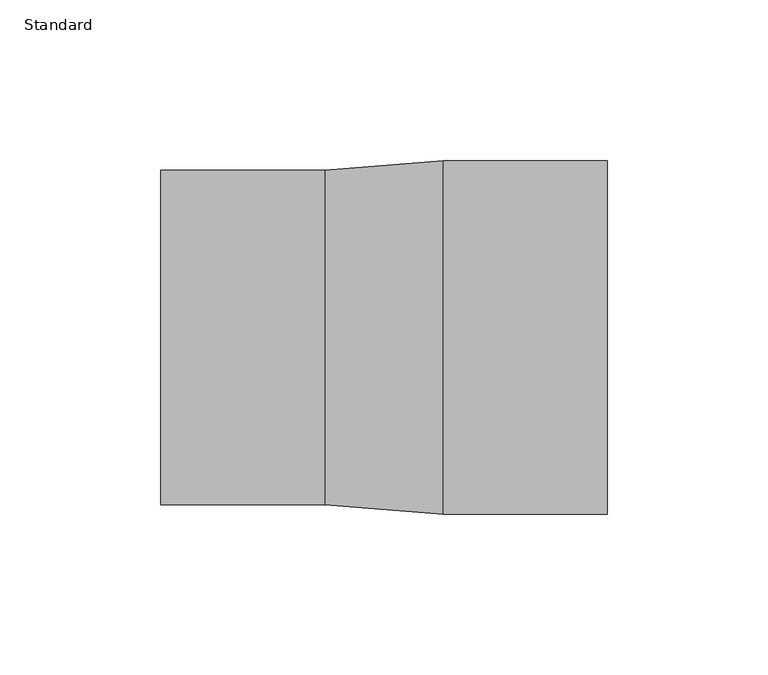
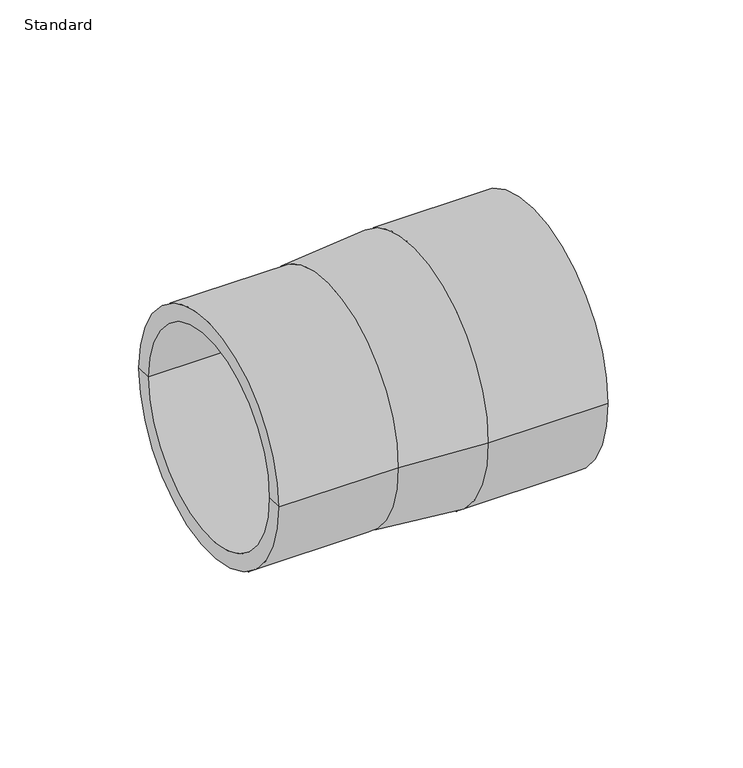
"""IFC4 building model written with IfcOpenShell, lengths in millimetres: pipe fitting geometry, Durapipe_PipeFitting_PVC_Reducers : Standard."""

import ifcopenshell
import ifcopenshell.guid

model = None  # the IFC model being written
_history = None  # IfcOwnerHistory: only IFC2X3 demands one
_inside = {}  # id of a spatial element -> (the spatial element, [elements in it])
_under = {}  # id of a project, library or spatial element -> (it, [spatial elements below it])
_declared = {}  # id of a project -> (the project, [libraries it declares])
_typed = {}  # id of a type object -> (the type object, [elements of that type])
_made_of = {}  # id of a material, layer set ... -> (it, [elements and type objects made of it])


def new_model(schema):
    """Start an empty IFC model of exactly this schema.

    Asked for "IFC4X3", IfcOpenShell would pick the latest addendum, in which some entities
    have other attributes; the version numbers below select the first issue.
    IFC2X3 requires an IfcOwnerHistory on every rooted entity: one is made here for all.
    """
    global model, _history
    if schema == "IFC4X3":
        model = ifcopenshell.file(schema_version=(4, 3, 0, 0))
    else:
        model = ifcopenshell.file(schema=schema)
    _inside.clear()
    _under.clear()
    _declared.clear()
    _typed.clear()
    _made_of.clear()
    _history = None
    if model.schema == "IFC2X3":
        org = make("IfcOrganization", Name="unknown")
        user = make(
            "IfcPersonAndOrganization",
            ThePerson=make("IfcPerson", FamilyName="unknown"),
            TheOrganization=org,
        )
        app = make(
            "IfcApplication",
            ApplicationDeveloper=org,
            Version="unknown",
            ApplicationFullName="unknown",
            ApplicationIdentifier="unknown",
        )
        _history = make(
            "IfcOwnerHistory",
            OwningUser=user,
            OwningApplication=app,
            ChangeAction="ADDED",
            CreationDate=0,
        )
    return model


def make(cls, **values):
    """One entity of the class cls with the attributes given. An attribute that is None is left unset."""
    return model.create_entity(
        cls, **{name: value for name, value in values.items() if value is not None}
    )


def rooted(cls, **values):
    """An entity with a GlobalId (a new one), such as an element, a storey or a relation."""
    return make(cls, GlobalId=ifcopenshell.guid.new(), OwnerHistory=_history, **values)


def si_unit(unit_type, name, prefix=None):
    """IfcSIUnit, for example si_unit("LENGTHUNIT", "METRE", prefix="MILLI")."""
    return make("IfcSIUnit", UnitType=unit_type, Prefix=prefix, Name=name)


def assignment(units):
    """IfcUnitAssignment: the units of a project."""
    return None if units is None else make("IfcUnitAssignment", Units=units)


def point(xyz):
    """IfcCartesianPoint."""
    return None if xyz is None else make("IfcCartesianPoint", Coordinates=xyz)


def direction(xyz):
    """IfcDirection."""
    return None if xyz is None else make("IfcDirection", DirectionRatios=xyz)


def frame(location, z_axis=None, x_axis=None):
    """IfcAxis2Placement3D, a coordinate frame: its origin and axes. An axis left out is left unset."""
    return make(
        "IfcAxis2Placement3D",
        Location=point(location),
        Axis=direction(z_axis),
        RefDirection=direction(x_axis),
    )


def origin():
    """The frame at (0, 0, 0) with its axes left unset."""
    return frame((0.0, 0.0, 0.0))


def place(relative_to, where):
    """IfcLocalPlacement: puts the frame where relative to a parent placement (None: the world)."""
    return make(
        "IfcLocalPlacement", PlacementRelTo=relative_to, RelativePlacement=where
    )


def context(
    kind, dimensions, precision=None, world=None, true_north=None, identifier=None
):
    """IfcGeometricRepresentationContext, for example the 3D "Model" context."""
    return make(
        "IfcGeometricRepresentationContext",
        ContextIdentifier=identifier,
        ContextType=kind,
        CoordinateSpaceDimension=dimensions,
        Precision=precision,
        WorldCoordinateSystem=world,
        TrueNorth=true_north,
    )


def project(units=None, contexts=None):
    """IfcProject with its units and contexts."""
    return rooted(
        "IfcProject",
        Name="project",
        RepresentationContexts=contexts,
        UnitsInContext=assignment(units),
    )


def spatial(cls, under=None, at=None, **own):
    """A site, building, storey or space (cls), placed at a placement, below another one or the project."""
    s = rooted(cls, ObjectPlacement=at, **own)
    if under is not None:
        _under.setdefault(under.id(), (under, []))[1].append(s)
    return s


def polyline(points):
    """IfcPolyline through the points."""
    return make("IfcPolyline", Points=[point(p) for p in points])


def circle_curve(where, radius):
    """IfcCircle in the frame where."""
    return make("IfcCircle", Position=where, Radius=radius)


def shape(context_of_items, identifier, shape_type, items):
    """IfcShapeRepresentation: the items that make up one representation, for example the "Body"."""
    return make(
        "IfcShapeRepresentation",
        ContextOfItems=context_of_items,
        RepresentationIdentifier=identifier,
        RepresentationType=shape_type,
        Items=items,
    )


def source(mapping_origin, context_of_items, identifier, shape_type, items):
    """IfcRepresentationMap: a shape defined once, which mapped items show again and again."""
    return make(
        "IfcRepresentationMap",
        MappingOrigin=mapping_origin,
        MappedRepresentation=shape(context_of_items, identifier, shape_type, items),
    )


def transform(
    local_origin,
    x_axis=None,
    y_axis=None,
    z_axis=None,
    scale=None,
    scale2=None,
    scale3=None,
    uniform=True,
):
    """IfcCartesianTransformationOperator3D, or its non-uniform kind. x_axis, y_axis, z_axis: its Axis1, 2, 3."""
    if uniform:
        return make(
            "IfcCartesianTransformationOperator3D",
            Axis1=direction(x_axis),
            Axis2=direction(y_axis),
            LocalOrigin=point(local_origin),
            Scale=scale,
            Axis3=direction(z_axis),
        )
    return make(
        "IfcCartesianTransformationOperator3DnonUniform",
        Axis1=direction(x_axis),
        Axis2=direction(y_axis),
        LocalOrigin=point(local_origin),
        Scale=scale,
        Axis3=direction(z_axis),
        Scale2=scale2,
        Scale3=scale3,
    )


def mapped(mapping_source, mapping_target):
    """IfcMappedItem: shows the shape of a source again, moved by a transform."""
    return make(
        "IfcMappedItem", MappingSource=mapping_source, MappingTarget=mapping_target
    )


def made_of(thing, what):
    """Note that an element or type object is made of a material, layer set ...; save() writes the relation."""
    if what is not None:
        _made_of.setdefault(what.id(), (what, []))[1].append(thing)
    return thing


def element(
    cls,
    number,
    at=None,
    inside=None,
    cuts=None,
    type_object=None,
    material=None,
    context=None,
    identifier="Body",
    shape_type=None,
    held_by="IfcProductDefinitionShape",
    body=None,
    shapes=None,
    **own,
):
    """One element of the class cls, such as IfcWall. Its Tag is "e" and its number.

    at: its placement. inside: the storey or other place that contains it. cuts: it is an
    opening in that element (IfcRelVoidsElement). A single representation is given by context,
    identifier, shape_type and body (its items); several are given by shapes. held_by: the class
    of the entity that holds the representations. save() writes the other relations.
    """
    e = rooted(cls, Tag="e%d" % number, ObjectPlacement=at, **own)
    if body is not None:
        shapes = [shape(context, identifier, shape_type, body)]
    if shapes is not None:
        e.Representation = make(held_by, Representations=shapes)
    if inside is not None:
        _inside.setdefault(inside.id(), (inside, []))[1].append(e)
    if cuts is not None:
        rooted(
            "IfcRelVoidsElement", RelatingBuildingElement=cuts, RelatedOpeningElement=e
        )
    if type_object is not None:
        _typed.setdefault(type_object.id(), (type_object, []))[1].append(e)
    return made_of(e, material)


def aggregate(whole, parts):
    """IfcRelAggregates: a whole, such as a stair, and the parts it consists of."""
    return rooted("IfcRelAggregates", RelatingObject=whole, RelatedObjects=parts)


def save(model, path):
    """Write the relations noted so far, then the file.

    IfcRelAggregates (storeys below a building ...), IfcRelContainedInSpatialStructure (elements
    in a storey), IfcRelDefinesByType, IfcRelAssociatesMaterial and IfcRelDeclares: one each for
    every whole, place, type object, material and project.
    """
    for whole, parts in _under.values():
        aggregate(whole, parts)
    for where, things in _inside.values():
        rooted(
            "IfcRelContainedInSpatialStructure",
            RelatedElements=things,
            RelatingStructure=where,
        )
    for kind, things in _typed.values():
        rooted("IfcRelDefinesByType", RelatedObjects=things, RelatingType=kind)
    for what, things in _made_of.values():
        rooted("IfcRelAssociatesMaterial", RelatedObjects=things, RelatingMaterial=what)
    for by, libraries in _declared.values():
        rooted("IfcRelDeclares", RelatingContext=by, RelatedDefinitions=libraries)
    model.write(path)


def plane_surface(at):
    """IfcPlane: the flat surface through the origin of the frame at, square to its z axis."""
    return make("IfcPlane", Position=at)


def cylinder_surface(at, radius):
    """IfcCylindricalSurface: all points at the distance radius from the z axis of the frame at."""
    return make("IfcCylindricalSurface", Position=at, Radius=radius)


def revolved_surface(curve, axis_point, axis_direction):
    """IfcSurfaceOfRevolution: the curve turned about the line through axis_point along axis_direction."""
    return make(
        "IfcSurfaceOfRevolution",
        SweptCurve=make("IfcArbitraryOpenProfileDef", ProfileType="CURVE", Curve=curve),
        AxisPosition=make("IfcAxis1Placement", Location=point(axis_point), Axis=direction(axis_direction)),
    )


def advanced_brep(points, edges, surfaces, faces):
    """IfcAdvancedBrep: a solid bounded by faces that lie on surfaces and meet in shared edges.

    An edge is (start, end): straight between two places in points (the first is 0);
    or (start, end, curve); or (start, end, curve, False) where it runs against its curve.
    A face is (place in surfaces, loops), or (place, loops, False) where it looks against
    its surface's normal. A loop lists edges by number (the first is 1), with a minus sign
    where the edge is run from its end to its start. The first loop is the outer one.
    """
    corners = [point(p) for p in points]
    vertices = [make("IfcVertexPoint", VertexGeometry=c) for c in corners]
    made = []
    for start, end, *more in edges:
        made.append(
            make(
                "IfcEdgeCurve",
                EdgeStart=vertices[start],
                EdgeEnd=vertices[end],
                EdgeGeometry=more[0] if more else make("IfcPolyline", Points=[corners[start], corners[end]]),
                SameSense=more[1] if len(more) > 1 else True,
            )
        )
    hull = []
    for where, loops, *sense in faces:
        bounds = []
        for j, loop in enumerate(loops):
            ring = [make("IfcOrientedEdge", EdgeElement=made[abs(k) - 1], Orientation=k > 0) for k in loop]
            bounds.append(
                make(
                    "IfcFaceOuterBound" if j == 0 else "IfcFaceBound",
                    Bound=make("IfcEdgeLoop", EdgeList=ring),
                    Orientation=True,
                )
            )
        hull.append(make("IfcAdvancedFace", Bounds=bounds, FaceSurface=surfaces[where], SameSense=sense[0] if sense else True))
    return make("IfcAdvancedBrep", Outer=make("IfcClosedShell", CfsFaces=hull))


def standard_e4e67fd3(model_context):
    return source(origin(), model_context, "Body", "AdvancedBrep", [
        advanced_brep(
        [(-69.5, -52.0, 0.0), (-69.5, 52.0, 0.0), (-18.5, 52.0, 0.0), (-18.5, -52.0, 0.0), (-69.5, -45.0, 0.0), (-69.5, 45.0, 0.0), (69.5, -55.0, 0.0), (69.5, 55.0, 0.0), (69.5, 45.0, 0.0), (69.5, -45.0, 0.0), (18.5, -55.0, 0.0), (18.5, 55.0, 0.0), (-18.5, -45.0, 0.0), (-18.5, 45.0, 0.0), (-18.5, 0.0, 0.0), (18.5, -45.0, 0.0), (18.5, 45.0, 0.0), (18.5, 0.0, 0.0)],
        [
            (0, 1, circle_curve(frame((-69.5, 0.0, 0.0), z_axis=(1.0, 0.0, 0.0), x_axis=(0.0, 1.0, 0.0)), 52.0)),
            (1, 2),
            (2, 3, circle_curve(frame((-18.5, 0.0, 0.0), z_axis=(-1.0, 0.0, 0.0), x_axis=(0.0, 1.0, 0.0)), 52.0)),
            (3, 0),
            (1, 0, circle_curve(frame((-69.5, 0.0, 0.0), z_axis=(1.0, 0.0, 0.0), x_axis=(0.0, 1.0, 0.0)), 52.0)),
            (3, 2, circle_curve(frame((-18.5, 0.0, 0.0), z_axis=(-1.0, 0.0, 0.0), x_axis=(0.0, 1.0, 0.0)), 52.0)),
            (4, 5, circle_curve(frame((-69.5, 0.0, 0.0), z_axis=(1.0, 0.0, 0.0), x_axis=(0.0, 1.0, 0.0)), 45.0)),
            (5, 1),
            (0, 4),
            (5, 4, circle_curve(frame((-69.5, 0.0, 0.0), z_axis=(1.0, 0.0, 0.0), x_axis=(0.0, 1.0, 0.0)), 45.0)),
            (6, 7, circle_curve(frame((69.5, 0.0, 0.0), z_axis=(1.0, 0.0, 0.0), x_axis=(0.0, 1.0, 0.0)), 55.0)),
            (7, 8),
            (8, 9, circle_curve(frame((69.5, 0.0, 0.0), z_axis=(-1.0, 0.0, 0.0), x_axis=(0.0, 1.0, 0.0)), 45.0)),
            (9, 6),
            (7, 6, circle_curve(frame((69.5, 0.0, 0.0), z_axis=(1.0, 0.0, 0.0), x_axis=(0.0, 1.0, 0.0)), 55.0)),
            (9, 8, circle_curve(frame((69.5, 0.0, 0.0), z_axis=(-1.0, 0.0, 0.0), x_axis=(0.0, 1.0, 0.0)), 45.0)),
            (10, 11, circle_curve(frame((18.5, 0.0, 0.0), z_axis=(1.0, 0.0, 0.0), x_axis=(0.0, 1.0, 0.0)), 55.0)),
            (11, 7),
            (6, 10),
            (11, 10, circle_curve(frame((18.5, 0.0, 0.0), z_axis=(1.0, 0.0, 0.0), x_axis=(0.0, 1.0, 0.0)), 55.0)),
            (2, 11),
            (10, 3),
            (12, 13, circle_curve(frame((-18.5, 0.0, 0.0), z_axis=(1.0, 0.0, 0.0), x_axis=(0.0, 1.0, 0.0)), 45.0)),
            (13, 5),
            (4, 12),
            (13, 12, circle_curve(frame((-18.5, 0.0, 0.0), z_axis=(1.0, 0.0, 0.0), x_axis=(0.0, 1.0, 0.0)), 45.0)),
            (14, 13),
            (12, 14),
            (15, 16, circle_curve(frame((18.5, 0.0, 0.0), z_axis=(1.0, 0.0, 0.0), x_axis=(0.0, 1.0, 0.0)), 45.0)),
            (16, 17),
            (17, 15),
            (16, 15, circle_curve(frame((18.5, 0.0, 0.0), z_axis=(1.0, 0.0, 0.0), x_axis=(0.0, 1.0, 0.0)), 45.0)),
            (8, 16),
            (15, 9),
        ],
        [
            cylinder_surface(frame((-69.5, 0.0, 0.0), z_axis=(-1.0, 0.0, 0.0), x_axis=(0.0, 1.0, 0.0)), 52.0),
            plane_surface(frame((-69.5, 0.0, 0.0), z_axis=(-1.0, 0.0, 0.0), x_axis=(0.0, 1.0, 0.0))),
            plane_surface(frame((69.5, 0.0, 0.0), z_axis=(1.0, 0.0, 0.0), x_axis=(0.0, 1.0, 0.0))),
            cylinder_surface(frame((-69.5, 0.0, 0.0), z_axis=(-1.0, 0.0, 0.0), x_axis=(0.0, 1.0, 0.0)), 55.0),
            revolved_surface(polyline([(18.5, 55.0, 0.0), (-18.5, 52.0, 0.0)]), (-69.5, 0.0, 0.0), (-1.0, 0.0, 0.0)),
            revolved_surface(polyline([(-69.5, 45.0, 0.0), (-18.5, 45.0, 0.0)]), (-69.5, 0.0, 0.0), (-1.0, 0.0, 0.0)),
            plane_surface(frame((-18.5, 0.0, 0.0), z_axis=(-1.0, 0.0, 0.0), x_axis=(0.0, 1.0, 0.0))),
            plane_surface(frame((18.5, 0.0, 0.0), z_axis=(1.0, 0.0, 0.0), x_axis=(0.0, 1.0, 0.0))),
            revolved_surface(polyline([(18.5, 45.0, 0.0), (69.5, 45.0, 0.0)]), (-69.5, 0.0, 0.0), (-1.0, 0.0, 0.0)),
        ],
        [
            (0, [[1, 2, 3, 4]]),
            (0, [[5, -4, 6, -2]]),
            (1, [[7, 8, -1, 9]]),
            (1, [[10, -9, -5, -8]]),
            (2, [[11, 12, 13, 14]]),
            (2, [[15, -14, 16, -12]]),
            (3, [[17, 18, -11, 19]]),
            (3, [[20, -19, -15, -18]]),
            (4, [[-3, 21, -17, 22]]),
            (4, [[-6, -22, -20, -21]]),
            (5, [[23, 24, -7, 25]]),
            (5, [[26, -25, -10, -24]]),
            (6, [[27, -23, 28]]),
            (6, [[-28, -26, -27]]),
            (7, [[29, 30, 31]]),
            (7, [[32, -31, -30]]),
            (8, [[-13, 33, -29, 34]]),
            (8, [[-16, -34, -32, -33]]),
        ],
    ),
    ])


if __name__ == "__main__":
    model = new_model("IFC4")
    model_context = context("Model", 3, world=origin())
    ifc_project = project(units=[si_unit("LENGTHUNIT", "METRE", prefix="MILLI")], contexts=[model_context])
    site = spatial("IfcSite", under=ifc_project)
    building = spatial("IfcBuilding", under=site)
    placement = place(None, origin())
    standard_shape = standard_e4e67fd3(model_context)
    element("IfcPipeFitting", 1, ObjectType="Durapipe_PipeFitting_PVC_Reducers : Standard", at=placement, inside=building, context=model_context, shape_type="MappedRepresentation", body=[
        mapped(standard_shape, transform((0.0, 0.0, 0.0), x_axis=(1.0, 0.0, 0.0), y_axis=(0.0, 1.0, 0.0), z_axis=(0.0, 0.0, 1.0))),
    ])
    save(model, "model.ifc")
